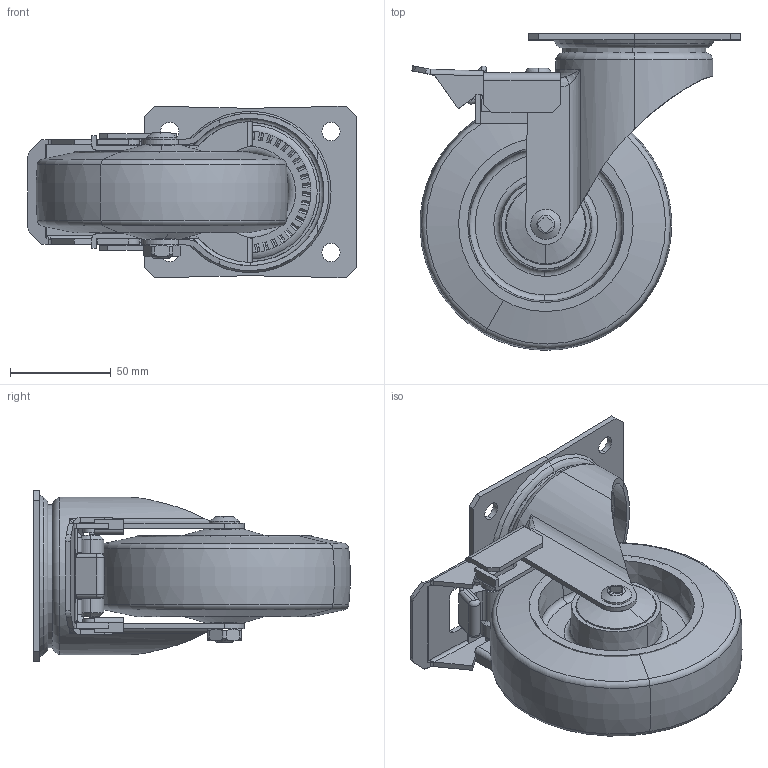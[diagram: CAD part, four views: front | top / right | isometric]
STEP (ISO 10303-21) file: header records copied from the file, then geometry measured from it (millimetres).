
FILE_DESCRIPTION (( 'STEP AP203' ), '1' );
FILE_NAME ('400551_STEP.STEP', '2012-10-08T05:25:26', ( ' ' ), ( '' ), 'SwSTEP 2.0', 'SolidWorks 2011', '' );
FILE_SCHEMA (( 'CONFIG_CONTROL_DESIGN' ));
Length unit declared in the file: millimetre
Products named in the file (1): 400551_STEP
Bounding box: 162.77 x 156.88 x 85 mm (x, y, z)
Surface area: 129912.1 mm2 (no closed solid volume)
Topology: 0 solids, 25 shells, 552 faces, 1870 edges, 1285 vertices
Faces by surface type: plane 272, cylinder 151, torus 63, cone 52, bspline 10, sphere 4
Entity records: 21309 total; most frequent: CARTESIAN_POINT 5160, DIRECTION 3428, ORIENTED_EDGE 3132, EDGE_CURVE 1866, VERTEX_POINT 1285, AXIS2_PLACEMENT_3D 1214, VECTOR 1000, LINE 1000
